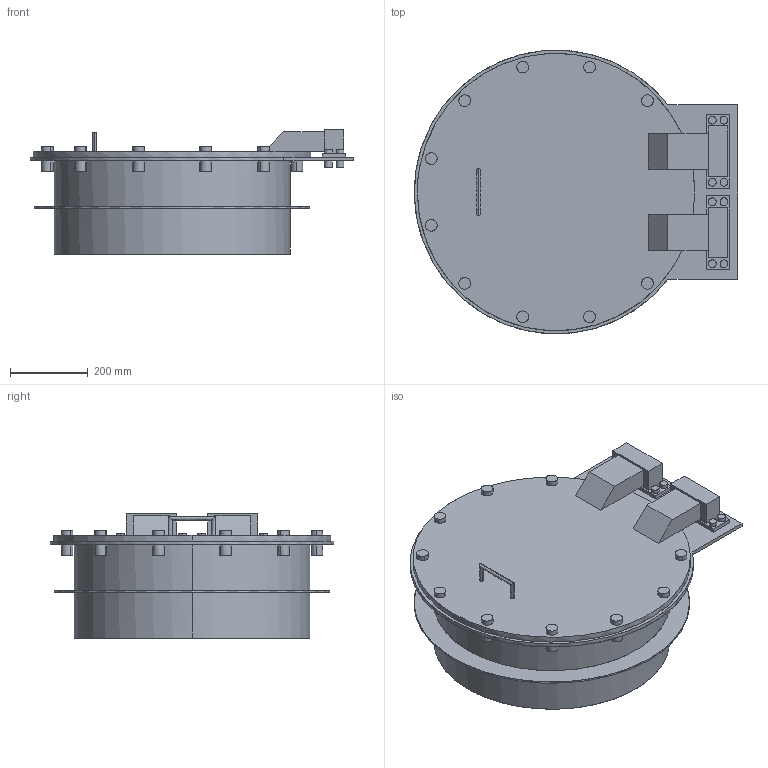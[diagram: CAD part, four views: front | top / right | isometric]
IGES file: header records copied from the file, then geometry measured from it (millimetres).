
Start section:  PTC IGES file: 52218263.igs
Global section: file name: 52218263.igs; native system: Creo Parametric by PTC Inc.; preprocessor: 2022162; author: ka; organization: Unknown; date: 20240321.090610; units: millimetre
Bounding box: 833.4 x 730.28 x 320 mm (x, y, z)
Surface area: 2312831.5 mm2 (no closed solid volume)
Topology: 0 solids, 0 shells, 171 faces, 736 edges, 736 vertices
Faces by surface type: revolution 93, bspline 78
